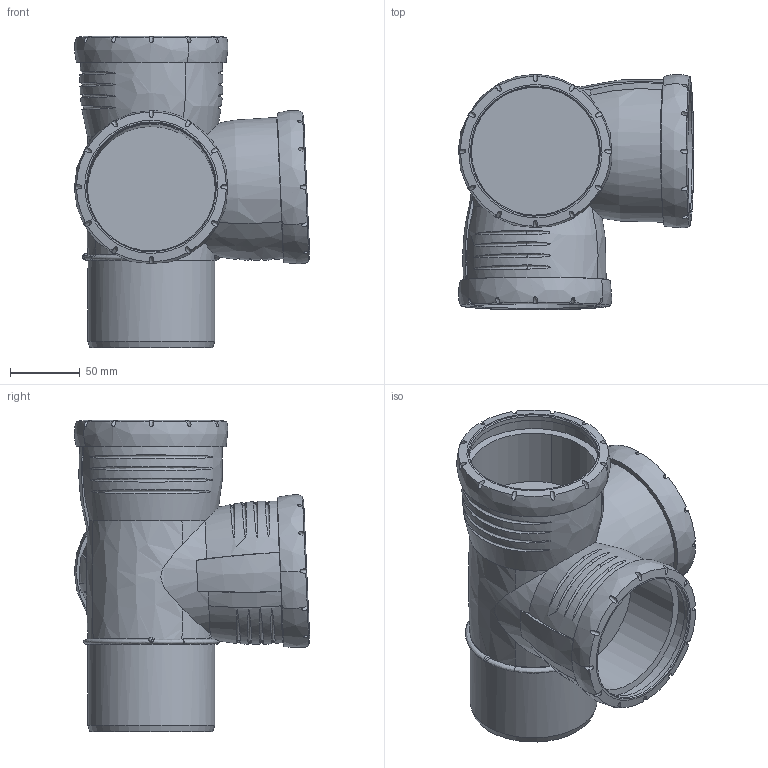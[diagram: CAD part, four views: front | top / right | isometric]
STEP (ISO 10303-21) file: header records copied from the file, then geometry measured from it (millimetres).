
FILE_DESCRIPTION(/* description */ (''),/* implementation_level */ '2;1');
FILE_NAME(/* name */ 'H:\Geberit-Teile\Export\Silent\stp\393459.stp',/* time_stamp */ '2017-03-30T11:41:20+02:00',/* author */ ('seihe2'),/* organization */ (''),/* preprocessor_version */ 'ST-DEVELOPER v15.2',/* originating_system */ 'Autodesk Inventor 2014',/* authorisation */ '');
FILE_SCHEMA (('AUTOMOTIVE_DESIGN { 1 0 10303 214 3 1 1 }'));
Length unit declared in the file: millimetre
Products named in the file (1): 393459
Bounding box: 168.73 x 168.73 x 223.31 mm (x, y, z)
Surface area: 215095.2 mm2 (no closed solid volume)
Topology: 0 solids, 1 shells, 241 faces, 662 edges, 441 vertices
Faces by surface type: bspline 112, cone 101, cylinder 14, plane 13, torus 1
Full cylindrical faces by diameter (mm): 82.341 x1, 91.019 x1, 92.028 x3, 101.423 x1, 101.743 x1, 101.941 x1
Entity records: 14722 total; most frequent: CARTESIAN_POINT 9495, ORIENTED_EDGE 1268, DIRECTION 667, EDGE_CURVE 634, VERTEX_POINT 433, B_SPLINE_CURVE_WITH_KNOTS 408, AXIS2_PLACEMENT_3D 313, EDGE_LOOP 279
